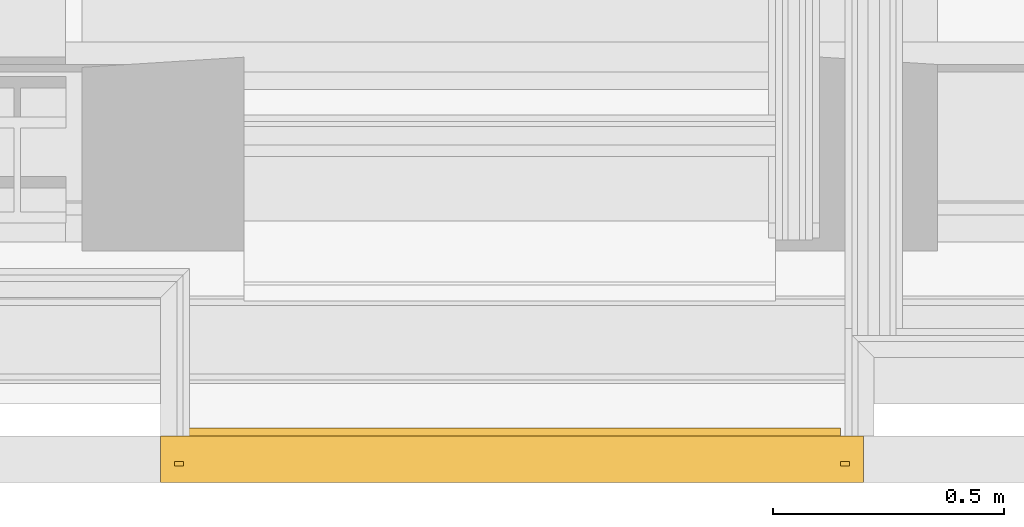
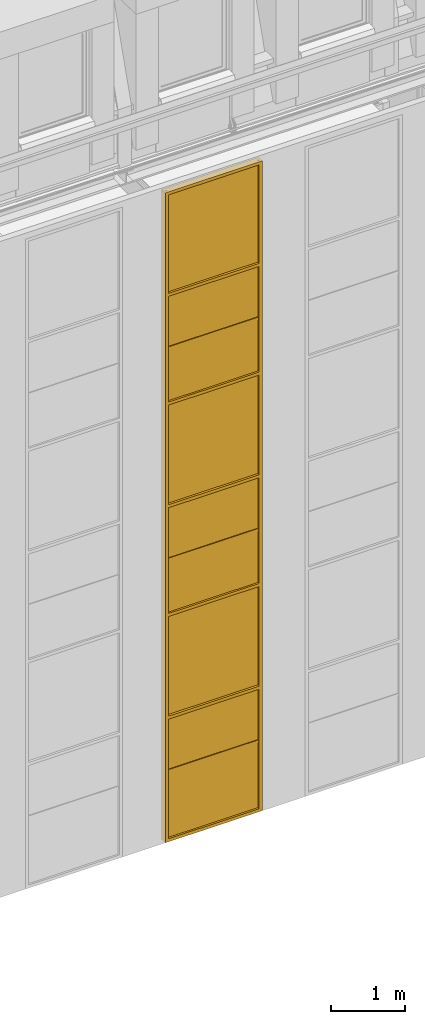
# One storey, part 137 of 183: 1 curtain wall.
"""IFC2X3 building model written with IfcOpenShell, lengths in metres."""

import ifcopenshell
import ifcopenshell.guid

model = None  # the IFC model being written
_history = None  # IfcOwnerHistory: only IFC2X3 demands one
_inside = {}  # id of a spatial element -> (the spatial element, [elements in it])
_under = {}  # id of a project, library or spatial element -> (it, [spatial elements below it])
_declared = {}  # id of a project -> (the project, [libraries it declares])
_typed = {}  # id of a type object -> (the type object, [elements of that type])
_made_of = {}  # id of a material, layer set ... -> (it, [elements and type objects made of it])


def new_model(schema):
    """Start an empty IFC model of exactly this schema.

    Asked for "IFC4X3", IfcOpenShell would pick the latest addendum, in which some entities
    have other attributes; the version numbers below select the first issue.
    IFC2X3 requires an IfcOwnerHistory on every rooted entity: one is made here for all.
    """
    global model, _history
    if schema == "IFC4X3":
        model = ifcopenshell.file(schema_version=(4, 3, 0, 0))
    else:
        model = ifcopenshell.file(schema=schema)
    _inside.clear()
    _under.clear()
    _declared.clear()
    _typed.clear()
    _made_of.clear()
    _history = None
    if model.schema == "IFC2X3":
        org = make("IfcOrganization", Name="unknown")
        user = make(
            "IfcPersonAndOrganization",
            ThePerson=make("IfcPerson", FamilyName="unknown"),
            TheOrganization=org,
        )
        app = make(
            "IfcApplication",
            ApplicationDeveloper=org,
            Version="unknown",
            ApplicationFullName="unknown",
            ApplicationIdentifier="unknown",
        )
        _history = make(
            "IfcOwnerHistory",
            OwningUser=user,
            OwningApplication=app,
            ChangeAction="ADDED",
            CreationDate=0,
        )
    return model


def make(cls, **values):
    """One entity of the class cls with the attributes given. An attribute that is None is left unset."""
    return model.create_entity(
        cls, **{name: value for name, value in values.items() if value is not None}
    )


def entity(cls, *values):
    """Any entity or typed value of the class cls, its attributes in the order of the schema. None: left unset."""
    e = model.create_entity(cls)
    for i, value in enumerate(values):
        if value is not None:
            e[i] = value
    return e


def rooted(cls, **values):
    """An entity with a GlobalId (a new one), such as an element, a storey or a relation."""
    return make(cls, GlobalId=ifcopenshell.guid.new(), OwnerHistory=_history, **values)


def si_unit(unit_type, name, prefix=None):
    """IfcSIUnit, for example si_unit("LENGTHUNIT", "METRE", prefix="MILLI")."""
    return make("IfcSIUnit", UnitType=unit_type, Prefix=prefix, Name=name)


def converted_unit(unit_type, name, factor, base, dimensions=None, offset=None):
    """IfcConversionBasedUnit, such as the inch: factor (a typed value) times the base unit."""
    return make(
        "IfcConversionBasedUnit"
        if offset is None
        else "IfcConversionBasedUnitWithOffset",
        ConversionOffset=offset,
        Dimensions=None
        if dimensions is None
        else entity("IfcDimensionalExponents", *dimensions),
        UnitType=unit_type,
        Name=name,
        ConversionFactor=make(
            "IfcMeasureWithUnit", ValueComponent=factor, UnitComponent=base
        ),
    )


def derived_unit(unit_type, elements):
    """IfcDerivedUnit: a product of units, each with its exponent."""
    return make(
        "IfcDerivedUnit",
        Elements=[
            make("IfcDerivedUnitElement", Unit=unit, Exponent=power)
            for unit, power in elements
        ],
        UnitType=unit_type,
    )


def money_unit(currency):
    """IfcMonetaryUnit."""
    return make("IfcMonetaryUnit", Currency=currency)


def assignment(units):
    """IfcUnitAssignment: the units of a project."""
    return None if units is None else make("IfcUnitAssignment", Units=units)


def point(xyz):
    """IfcCartesianPoint."""
    return None if xyz is None else make("IfcCartesianPoint", Coordinates=xyz)


def direction(xyz):
    """IfcDirection."""
    return None if xyz is None else make("IfcDirection", DirectionRatios=xyz)


def frame(location, z_axis=None, x_axis=None):
    """IfcAxis2Placement3D, a coordinate frame: its origin and axes. An axis left out is left unset."""
    return make(
        "IfcAxis2Placement3D",
        Location=point(location),
        Axis=direction(z_axis),
        RefDirection=direction(x_axis),
    )


def origin_with_axes():
    """The frame at (0, 0, 0) with the z axis (0, 0, 1) and the x axis (1, 0, 0) written out."""
    return frame((0.0, 0.0, 0.0), z_axis=(0.0, 0.0, 1.0), x_axis=(1.0, 0.0, 0.0))


def place(relative_to, where):
    """IfcLocalPlacement: puts the frame where relative to a parent placement (None: the world)."""
    return make(
        "IfcLocalPlacement", PlacementRelTo=relative_to, RelativePlacement=where
    )


def context(
    kind, dimensions, precision=None, world=None, true_north=None, identifier=None
):
    """IfcGeometricRepresentationContext, for example the 3D "Model" context."""
    return make(
        "IfcGeometricRepresentationContext",
        ContextIdentifier=identifier,
        ContextType=kind,
        CoordinateSpaceDimension=dimensions,
        Precision=precision,
        WorldCoordinateSystem=world,
        TrueNorth=true_north,
    )


def subcontext(parent, identifier, kind, view, scale=None):
    """IfcGeometricRepresentationSubContext, for example "Body" below "Model"."""
    return make(
        "IfcGeometricRepresentationSubContext",
        ContextIdentifier=identifier,
        ContextType=kind,
        ParentContext=parent,
        TargetScale=scale,
        TargetView=view,
    )


def project(units=None, contexts=None):
    """IfcProject with its units and contexts."""
    return rooted(
        "IfcProject",
        Name="project",
        RepresentationContexts=contexts,
        UnitsInContext=assignment(units),
    )


def spatial(cls, under=None, at=None, **own):
    """A site, building, storey or space (cls), placed at a placement, below another one or the project."""
    s = rooted(cls, ObjectPlacement=at, **own)
    if under is not None:
        _under.setdefault(under.id(), (under, []))[1].append(s)
    return s


def faces_of(points, faces, orient=None, outer=None):
    """IfcFace entities. A face is a list of loops; a loop is a list of indices into points, from 0.

    orient and outer hold one flag for each loop. By default every Orientation is true, the
    first loop of a face is its IfcFaceOuterBound and the others are IfcFaceBound.
    """
    made = []
    for i, loops in enumerate(faces):
        bounds = []
        for j, loop in enumerate(loops):
            is_outer = j == 0 if outer is None else outer[i][j]
            bounds.append(
                make(
                    "IfcFaceOuterBound" if is_outer else "IfcFaceBound",
                    Bound=make("IfcPolyLoop", Polygon=[points[k] for k in loop]),
                    Orientation=True if orient is None else orient[i][j],
                )
            )
        made.append(make("IfcFace", Bounds=bounds))
    return made


def faceted_brep(points, faces, orient=None, outer=None, voids=None):
    """IfcFacetedBrep: a solid bounded by flat faces; with voids (closed shells), ...WithVoids."""
    shared = [point(p) for p in points]
    hull = make("IfcClosedShell", CfsFaces=faces_of(shared, faces, orient, outer))
    if voids is None:
        return make("IfcFacetedBrep", Outer=hull)
    return make(
        "IfcFacetedBrepWithVoids",
        Outer=hull,
        Voids=[
            make(cls, CfsFaces=faces_of(shared, fs, o, b)) for cls, fs, o, b in voids
        ],
    )


def shape(context_of_items, identifier, shape_type, items):
    """IfcShapeRepresentation: the items that make up one representation, for example the "Body"."""
    return make(
        "IfcShapeRepresentation",
        ContextOfItems=context_of_items,
        RepresentationIdentifier=identifier,
        RepresentationType=shape_type,
        Items=items,
    )


def material(Name=None, Category=None):
    """IfcMaterial."""
    return make("IfcMaterial", Name=Name, Category=Category)


def made_of(thing, what):
    """Note that an element or type object is made of a material, layer set ...; save() writes the relation."""
    if what is not None:
        _made_of.setdefault(what.id(), (what, []))[1].append(thing)
    return thing


def type_object(cls, material=None, **own):
    """A type object (cls), such as IfcWallType, which elements share."""
    return made_of(rooted(cls, **own), material)


def element(
    cls,
    number,
    at=None,
    inside=None,
    cuts=None,
    type_object=None,
    material=None,
    context=None,
    identifier="Body",
    shape_type=None,
    held_by="IfcProductDefinitionShape",
    body=None,
    shapes=None,
    **own,
):
    """One element of the class cls, such as IfcWall. Its Tag is "e" and its number.

    at: its placement. inside: the storey or other place that contains it. cuts: it is an
    opening in that element (IfcRelVoidsElement). A single representation is given by context,
    identifier, shape_type and body (its items); several are given by shapes. held_by: the class
    of the entity that holds the representations. save() writes the other relations.
    """
    e = rooted(cls, Tag="e%d" % number, ObjectPlacement=at, **own)
    if body is not None:
        shapes = [shape(context, identifier, shape_type, body)]
    if shapes is not None:
        e.Representation = make(held_by, Representations=shapes)
    if inside is not None:
        _inside.setdefault(inside.id(), (inside, []))[1].append(e)
    if cuts is not None:
        rooted(
            "IfcRelVoidsElement", RelatingBuildingElement=cuts, RelatedOpeningElement=e
        )
    if type_object is not None:
        _typed.setdefault(type_object.id(), (type_object, []))[1].append(e)
    return made_of(e, material)


def aggregate(whole, parts):
    """IfcRelAggregates: a whole, such as a stair, and the parts it consists of."""
    return rooted("IfcRelAggregates", RelatingObject=whole, RelatedObjects=parts)


def save(model, path):
    """Write the relations noted so far, then the file.

    IfcRelAggregates (storeys below a building ...), IfcRelContainedInSpatialStructure (elements
    in a storey), IfcRelDefinesByType, IfcRelAssociatesMaterial and IfcRelDeclares: one each for
    every whole, place, type object, material and project.
    """
    for whole, parts in _under.values():
        aggregate(whole, parts)
    for where, things in _inside.values():
        rooted(
            "IfcRelContainedInSpatialStructure",
            RelatedElements=things,
            RelatingStructure=where,
        )
    for kind, things in _typed.values():
        rooted("IfcRelDefinesByType", RelatedObjects=things, RelatingType=kind)
    for what, things in _made_of.values():
        rooted("IfcRelAssociatesMaterial", RelatedObjects=things, RelatingMaterial=what)
    for by, libraries in _declared.values():
        rooted("IfcRelDeclares", RelatingContext=by, RelatedDefinitions=libraries)
    model.write(path)


model = new_model("IFC2X3")

# Units and contexts
model_context = context("Model", 3, precision=1e-05, world=origin_with_axes(), true_north=direction((0.0, 1.0)))
body_context = subcontext(model_context, "Body", "Model", "MODEL_VIEW", scale=1.0)
ifc_project = project(units=[si_unit("LENGTHUNIT", "METRE"), si_unit("AREAUNIT", "SQUARE_METRE"), si_unit("VOLUMEUNIT", "CUBIC_METRE"), si_unit("ABSORBEDDOSEUNIT", "GRAY"), si_unit("AMOUNTOFSUBSTANCEUNIT", "MOLE"), si_unit("DOSEEQUIVALENTUNIT", "SIEVERT"), si_unit("ELECTRICCAPACITANCEUNIT", "FARAD"), si_unit("ELECTRICCHARGEUNIT", "COULOMB"), si_unit("ELECTRICCONDUCTANCEUNIT", "SIEMENS"), si_unit("ELECTRICCURRENTUNIT", "AMPERE"), si_unit("ELECTRICRESISTANCEUNIT", "OHM"), si_unit("ELECTRICVOLTAGEUNIT", "VOLT"), si_unit("ENERGYUNIT", "JOULE"), si_unit("FORCEUNIT", "NEWTON"), si_unit("FREQUENCYUNIT", "HERTZ"), si_unit("ILLUMINANCEUNIT", "LUX"), si_unit("INDUCTANCEUNIT", "HENRY"), si_unit("LUMINOUSFLUXUNIT", "LUMEN"), si_unit("LUMINOUSINTENSITYUNIT", "CANDELA"), si_unit("MAGNETICFLUXDENSITYUNIT", "TESLA"), si_unit("MAGNETICFLUXUNIT", "WEBER"), si_unit("MASSUNIT", "GRAM"), converted_unit("PLANEANGLEUNIT", "degree", entity("IfcReal", 0.0174532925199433), si_unit("PLANEANGLEUNIT", "RADIAN"), dimensions=[0, 0, 0, 0, 0, 0, 0]), si_unit("POWERUNIT", "WATT"), si_unit("PRESSUREUNIT", "PASCAL"), si_unit("RADIOACTIVITYUNIT", "BECQUEREL"), si_unit("SOLIDANGLEUNIT", "STERADIAN"), si_unit("THERMODYNAMICTEMPERATUREUNIT", "KELVIN"), si_unit("TIMEUNIT", "SECOND"), derived_unit("ACCELERATIONUNIT", [(si_unit("LENGTHUNIT", "METRE"), 1), (si_unit("TIMEUNIT", "SECOND"), -2)]), derived_unit("ANGULARVELOCITYUNIT", [(converted_unit("PLANEANGLEUNIT", "degree", entity("IfcReal", 0.0174532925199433), si_unit("PLANEANGLEUNIT", "RADIAN"), dimensions=[0, 0, 0, 0, 0, 0, 0]), 1), (si_unit("TIMEUNIT", "SECOND"), -1)]), derived_unit("CURVATUREUNIT", [(converted_unit("PLANEANGLEUNIT", "degree", entity("IfcReal", 0.0174532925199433), si_unit("PLANEANGLEUNIT", "RADIAN"), dimensions=[0, 0, 0, 0, 0, 0, 0]), 1), (si_unit("LENGTHUNIT", "METRE"), -1)]), derived_unit("DYNAMICVISCOSITYUNIT", [(si_unit("PRESSUREUNIT", "PASCAL"), 1), (si_unit("TIMEUNIT", "SECOND"), 1)]), derived_unit("HEATFLUXDENSITYUNIT", [(si_unit("POWERUNIT", "WATT"), 1), (si_unit("LENGTHUNIT", "METRE"), -2)]), derived_unit("HEATINGVALUEUNIT", [(si_unit("ENERGYUNIT", "JOULE"), 1), (si_unit("MASSUNIT", "GRAM"), -1)]), derived_unit("INTEGERCOUNTRATEUNIT", [(si_unit("TIMEUNIT", "SECOND"), -1)]), derived_unit("IONCONCENTRATIONUNIT", [(si_unit("MASSUNIT", "GRAM"), 1), (si_unit("VOLUMEUNIT", "CUBIC_METRE"), -1)]), derived_unit("ISOTHERMALMOISTURECAPACITYUNIT", [(si_unit("VOLUMEUNIT", "CUBIC_METRE"), 1), (si_unit("MASSUNIT", "GRAM"), -1)]), derived_unit("KINEMATICVISCOSITYUNIT", [(si_unit("AREAUNIT", "SQUARE_METRE"), 1), (si_unit("TIMEUNIT", "SECOND"), -1)]), derived_unit("LINEARFORCEUNIT", [(si_unit("FORCEUNIT", "NEWTON"), 1), (si_unit("LENGTHUNIT", "METRE"), -1)]), derived_unit("LINEARMOMENTUNIT", [(si_unit("FORCEUNIT", "NEWTON"), 1), (si_unit("LENGTHUNIT", "METRE"), -1)]), derived_unit("LINEARSTIFFNESSUNIT", [(si_unit("FORCEUNIT", "NEWTON"), 1), (si_unit("LENGTHUNIT", "METRE"), -1)]), derived_unit("LINEARVELOCITYUNIT", [(si_unit("LENGTHUNIT", "METRE"), 1), (si_unit("TIMEUNIT", "SECOND"), -1)]), derived_unit("LUMINOUSINTENSITYDISTRIBUTIONUNIT", [(si_unit("LUMINOUSINTENSITYUNIT", "CANDELA"), 1), (si_unit("LUMINOUSFLUXUNIT", "LUMEN"), -1)]), derived_unit("MASSDENSITYUNIT", [(si_unit("MASSUNIT", "GRAM"), 1), (si_unit("VOLUMEUNIT", "CUBIC_METRE"), -1)]), derived_unit("MASSFLOWRATEUNIT", [(si_unit("MASSUNIT", "GRAM"), 1), (si_unit("TIMEUNIT", "SECOND"), -1)]), derived_unit("MASSPERLENGTHUNIT", [(si_unit("MASSUNIT", "GRAM"), 1), (si_unit("LENGTHUNIT", "METRE"), -1)]), derived_unit("MODULUSOFELASTICITYUNIT", [(si_unit("FORCEUNIT", "NEWTON"), 1), (si_unit("AREAUNIT", "SQUARE_METRE"), -1)]), derived_unit("MODULUSOFLINEARSUBGRADEREACTIONUNIT", [(si_unit("FORCEUNIT", "NEWTON"), 1), (si_unit("LENGTHUNIT", "METRE"), -2)]), derived_unit("MODULUSOFROTATIONALSUBGRADEREACTIONUNIT", [(si_unit("FORCEUNIT", "NEWTON"), 1), (si_unit("LENGTHUNIT", "METRE"), 1)]), derived_unit("MODULUSOFSUBGRADEREACTIONUNIT", [(si_unit("FORCEUNIT", "NEWTON"), 1), (si_unit("VOLUMEUNIT", "CUBIC_METRE"), -1)]), derived_unit("MOISTUREDIFFUSIVITYUNIT", [(si_unit("VOLUMEUNIT", "CUBIC_METRE"), 1), (si_unit("TIMEUNIT", "SECOND"), -1)]), derived_unit("MOLECULARWEIGHTUNIT", [(si_unit("MASSUNIT", "GRAM"), 1), (si_unit("AMOUNTOFSUBSTANCEUNIT", "MOLE"), -1)]), derived_unit("PLANARFORCEUNIT", [(si_unit("FORCEUNIT", "NEWTON"), 1), (si_unit("LENGTHUNIT", "METRE"), -2)]), derived_unit("ROTATIONALFREQUENCYUNIT", [(si_unit("TIMEUNIT", "SECOND"), -1)]), derived_unit("ROTATIONALMASSUNIT", [(si_unit("MASSUNIT", "GRAM"), 1), (si_unit("LENGTHUNIT", "METRE"), 2)]), derived_unit("ROTATIONALSTIFFNESSUNIT", [(si_unit("FORCEUNIT", "NEWTON"), 1), (si_unit("LENGTHUNIT", "METRE"), 1), (converted_unit("PLANEANGLEUNIT", "degree", entity("IfcReal", 0.0174532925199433), si_unit("PLANEANGLEUNIT", "RADIAN"), dimensions=[0, 0, 0, 0, 0, 0, 0]), -1)]), derived_unit("SECTIONAREAINTEGRALUNIT", [(si_unit("LENGTHUNIT", "METRE"), 5)]), derived_unit("SECTIONMODULUSUNIT", [(si_unit("LENGTHUNIT", "METRE"), 3)]), derived_unit("SHEARMODULUSUNIT", [(si_unit("FORCEUNIT", "NEWTON"), 1), (si_unit("AREAUNIT", "SQUARE_METRE"), -1)]), derived_unit("SOUNDPOWERUNIT", [(si_unit("ENERGYUNIT", "JOULE"), 1), (si_unit("TIMEUNIT", "SECOND"), -1)]), derived_unit("SPECIFICHEATCAPACITYUNIT", [(si_unit("FORCEUNIT", "NEWTON"), 1), (si_unit("MASSUNIT", "GRAM"), -1), (si_unit("THERMODYNAMICTEMPERATUREUNIT", "KELVIN"), -1)]), derived_unit("TEMPERATUREGRADIENTUNIT", [(si_unit("THERMODYNAMICTEMPERATUREUNIT", "KELVIN"), 1), (si_unit("LENGTHUNIT", "METRE"), -1)]), derived_unit("THERMALADMITTANCEUNIT", [(si_unit("POWERUNIT", "WATT"), 1), (si_unit("AREAUNIT", "SQUARE_METRE"), -1), (si_unit("THERMODYNAMICTEMPERATUREUNIT", "KELVIN"), -1)]), derived_unit("THERMALCONDUCTANCEUNIT", [(si_unit("POWERUNIT", "WATT"), 1), (si_unit("LENGTHUNIT", "METRE"), -1), (si_unit("THERMODYNAMICTEMPERATUREUNIT", "KELVIN"), -1)]), derived_unit("THERMALEXPANSIONCOEFFICIENTUNIT", [(si_unit("THERMODYNAMICTEMPERATUREUNIT", "KELVIN"), -1)]), derived_unit("THERMALRESISTANCEUNIT", [(si_unit("AREAUNIT", "SQUARE_METRE"), 1), (si_unit("POWERUNIT", "WATT"), -1)]), derived_unit("THERMALTRANSMITTANCEUNIT", [(si_unit("POWERUNIT", "WATT"), 1), (si_unit("AREAUNIT", "SQUARE_METRE"), -1), (si_unit("THERMODYNAMICTEMPERATUREUNIT", "KELVIN"), -1)]), derived_unit("TORQUEUNIT", [(si_unit("FORCEUNIT", "NEWTON"), 1), (si_unit("LENGTHUNIT", "METRE"), 1)]), derived_unit("VAPORPERMEABILITYUNIT", [(si_unit("MASSUNIT", "GRAM"), 1), (si_unit("TIMEUNIT", "SECOND"), -1)]), derived_unit("VOLUMETRICFLOWRATEUNIT", [(si_unit("VOLUMEUNIT", "CUBIC_METRE"), 1), (si_unit("TIMEUNIT", "SECOND"), -1)]), derived_unit("WARPINGCONSTANTUNIT", [(si_unit("LENGTHUNIT", "METRE"), 6)]), derived_unit("WARPINGMOMENTUNIT", [(si_unit("FORCEUNIT", "NEWTON"), 1), (si_unit("LENGTHUNIT", "METRE"), 2)]), money_unit("GBP")], contexts=[model_context])

# Site, building, storey
site_placement = place(None, origin_with_axes())
site = spatial("IfcSite", under=ifc_project, at=site_placement, Name="Site", CompositionType="ELEMENT")
building_placement = place(site_placement, origin_with_axes())
building = spatial("IfcBuilding", under=site, at=building_placement, Name="Building01", CompositionType="ELEMENT")
storey_placement = place(building_placement, frame((0.0, 0.0, 5.15), z_axis=(0.0, 0.0, 1.0), x_axis=(1.0, 0.0, 0.0)))
storey = spatial("IfcBuildingStorey", under=building, at=storey_placement, Name="1F", CompositionType="ELEMENT", Elevation=5.15)

# Curtain wall
ifc_material = material(Name="A-CurtainWall_Frame")
curtain_wall_type = type_object("IfcCurtainWallType", Name="Pattern - Maximum Spacing", PredefinedType="NOTDEFINED")
curtain_wall_placement = place(storey_placement, frame((0.0, 0.0, -5.15), z_axis=(0.0, 0.0, 1.0), x_axis=(1.0, 0.0, 0.0)))
element("IfcCurtainWall", 1, at=curtain_wall_placement, inside=storey, type_object=curtain_wall_type, material=ifc_material, Name="24", ObjectType="Pattern - Maximum Spacing", context=body_context, shape_type="Brep", body=[
    faceted_brep([(18.25, 0.05, 4.0), (18.25, 0.03, 4.0), (18.25, 0.03, 5.118945), (18.25, 0.05, 5.118945), (19.71, 0.05, 4.0), (19.71, 0.03, 4.0), (19.71, 0.05, 5.118945), (19.71, 0.03, 5.118945)], [[[0, 1, 2, 3]], [[4, 5, 1, 0]], [[6, 7, 5, 4]], [[3, 2, 7, 6]], [[1, 5, 7, 2]], [[3, 6, 4, 0]]]),
    faceted_brep([(18.27, 0.045, 3.97), (18.25, 0.045, 3.97), (18.25, 0.035, 3.97), (18.27, 0.035, 3.97), (18.27, 0.0, 3.97), (18.22, 0.0, 3.97), (18.22, 0.1, 3.97), (18.27, 0.1, 3.97), (18.27, 0.1, 5.123945), (18.27, 0.045, 5.123945), (18.25, 0.045, 5.123945), (18.25, 0.035, 5.123945), (18.27, 0.035, 5.123945), (18.27, 0.0, 5.123945), (18.22, 0.0, 5.123945), (18.22, 0.1, 5.123945)], [[[0, 1, 2, 3, 4, 5, 6, 7]], [[7, 8, 9, 0]], [[0, 9, 10, 1]], [[1, 10, 11, 2]], [[2, 11, 12, 3]], [[3, 12, 13, 4]], [[4, 13, 14, 5]], [[5, 14, 15, 6]], [[6, 15, 8, 7]]]),
    faceted_brep([(19.69, 0.045, 4.0), (19.69, 0.035, 4.0), (19.69, 0.035, 4.02), (19.69, 0.0, 4.02), (19.69, 0.0, 3.97), (19.69, 0.1, 3.97), (19.69, 0.1, 4.02), (19.69, 0.045, 4.02), (18.27, 0.045, 4.02), (18.27, 0.045, 4.0), (18.27, 0.035, 4.0), (18.27, 0.035, 4.02), (18.27, 0.0, 4.02), (18.27, 0.0, 3.97), (18.27, 0.1, 3.97), (18.27, 0.1, 4.02)], [[[0, 1, 2, 3, 4, 5, 6, 7]], [[7, 8, 9, 0]], [[0, 9, 10, 1]], [[1, 10, 11, 2]], [[2, 11, 12, 3]], [[3, 12, 13, 4]], [[4, 13, 14, 5]], [[5, 14, 15, 6]], [[6, 15, 8, 7]], [[8, 15, 14, 13, 12, 11, 10, 9]]]),
    faceted_brep([(19.69, 0.045, 3.97), (19.69, 0.045, 5.123945), (19.69, 0.1, 5.123945), (19.69, 0.1, 3.97), (19.71, 0.045, 3.97), (19.71, 0.045, 5.123945), (19.71, 0.035, 3.97), (19.71, 0.035, 5.123945), (19.69, 0.035, 3.97), (19.69, 0.035, 5.123945), (19.69, 0.0, 3.97), (19.69, 0.0, 5.123945), (19.74, 0.0, 3.97), (19.74, 0.0, 5.123945), (19.74, 0.1, 3.97), (19.74, 0.1, 5.123945)], [[[0, 1, 2, 3]], [[4, 5, 1, 0]], [[6, 7, 5, 4]], [[8, 9, 7, 6]], [[10, 11, 9, 8]], [[12, 13, 11, 10]], [[14, 15, 13, 12]], [[3, 2, 15, 14]], [[14, 12, 10, 8, 6, 4, 0, 3]]]),
    faceted_brep([(18.27, 0.0625, 5.118945), (18.27, 0.0525, 5.118945), (18.27, 0.0525, 5.098945), (18.27, 0.0175, 5.098945), (18.27, 0.0175, 5.148945), (18.27, 0.0525, 5.148945), (18.27, 0.0525, 5.128945), (18.27, 0.0625, 5.128945), (18.27, 0.0625, 5.148945), (18.27, 0.1175, 5.148945), (18.27, 0.1175, 5.098945), (18.27, 0.0625, 5.098945), (19.69, 0.0625, 5.098945), (19.69, 0.0625, 5.118945), (19.69, 0.0525, 5.118945), (19.69, 0.0525, 5.098945), (19.69, 0.0175, 5.098945), (19.69, 0.0175, 5.148945), (19.69, 0.0525, 5.148945), (19.69, 0.0625, 5.128945), (19.69, 0.0625, 5.148945), (19.69, 0.0525, 5.128945), (19.69, 0.1175, 5.098945), (19.69, 0.1175, 5.148945)], [[[0, 1, 2, 3, 4, 5, 6, 7, 8, 9, 10, 11]], [[11, 12, 13, 0]], [[0, 13, 14, 1]], [[1, 14, 15, 2]], [[2, 15, 16, 3]], [[3, 16, 17, 4]], [[4, 17, 18, 5]], [[7, 19, 20, 8]], [[6, 21, 19, 7]], [[5, 18, 21, 6]], [[10, 22, 12, 11]], [[9, 23, 22, 10]], [[8, 20, 23, 9]], [[20, 19, 21, 18, 17, 16, 15, 14, 13, 12, 22, 23]]]),
    faceted_brep([(18.25, 0.05, 5.128945), (18.25, 0.03, 5.128945), (18.25, 0.03, 6.018105), (18.25, 0.05, 6.018105), (19.71, 0.05, 5.128945), (19.71, 0.03, 5.128945), (19.71, 0.05, 6.018105), (19.71, 0.03, 6.018105)], [[[0, 1, 2, 3]], [[4, 5, 1, 0]], [[6, 7, 5, 4]], [[3, 2, 7, 6]], [[1, 5, 7, 2]], [[3, 6, 4, 0]]]),
    faceted_brep([(18.22, 0.1, 6.023105), (18.22, 0.1, 5.123945), (18.22, 0.0, 5.123945), (18.22, 0.0, 6.023105), (18.27, 0.1, 6.023105), (18.27, 0.1, 5.123945), (18.27, 0.045, 6.023105), (18.27, 0.045, 5.123945), (18.25, 0.045, 6.023105), (18.25, 0.045, 5.123945), (18.25, 0.035, 6.023105), (18.25, 0.035, 5.123945), (18.27, 0.035, 6.023105), (18.27, 0.035, 5.123945), (18.27, 0.0, 6.023105), (18.27, 0.0, 5.123945)], [[[0, 1, 2, 3]], [[4, 5, 1, 0]], [[6, 7, 5, 4]], [[8, 9, 7, 6]], [[10, 11, 9, 8]], [[12, 13, 11, 10]], [[14, 15, 13, 12]], [[3, 2, 15, 14]]]),
    faceted_brep([(19.69, 0.045, 5.123945), (19.69, 0.045, 6.023105), (19.69, 0.1, 6.023105), (19.69, 0.1, 5.123945), (19.71, 0.045, 5.123945), (19.71, 0.045, 6.023105), (19.71, 0.035, 5.123945), (19.71, 0.035, 6.023105), (19.69, 0.035, 5.123945), (19.69, 0.035, 6.023105), (19.69, 0.0, 5.123945), (19.69, 0.0, 6.023105), (19.74, 0.0, 5.123945), (19.74, 0.0, 6.023105), (19.74, 0.1, 5.123945), (19.74, 0.1, 6.023105)], [[[0, 1, 2, 3]], [[4, 5, 1, 0]], [[6, 7, 5, 4]], [[8, 9, 7, 6]], [[10, 11, 9, 8]], [[12, 13, 11, 10]], [[14, 15, 13, 12]], [[3, 2, 15, 14]]]),
    faceted_brep([(18.27, 0.045, 6.018105), (18.27, 0.035, 6.018105), (18.27, 0.035, 5.998105), (18.27, 0.0, 5.998105), (18.27, 0.0, 6.048105), (18.27, 0.035, 6.048105), (18.27, 0.035, 6.028105), (18.27, 0.045, 6.028105), (18.27, 0.045, 6.048105), (18.27, 0.1, 6.048105), (18.27, 0.1, 5.998105), (18.27, 0.045, 5.998105), (19.69, 0.045, 5.998105), (19.69, 0.045, 6.018105), (19.69, 0.035, 6.018105), (19.69, 0.035, 5.998105), (19.69, 0.0, 5.998105), (19.69, 0.0, 6.048105), (19.69, 0.035, 6.048105), (19.69, 0.045, 6.028105), (19.69, 0.045, 6.048105), (19.69, 0.035, 6.028105), (19.69, 0.1, 5.998105), (19.69, 0.1, 6.048105)], [[[0, 1, 2, 3, 4, 5, 6, 7, 8, 9, 10, 11]], [[11, 12, 13, 0]], [[0, 13, 14, 1]], [[1, 14, 15, 2]], [[2, 15, 16, 3]], [[3, 16, 17, 4]], [[4, 17, 18, 5]], [[7, 19, 20, 8]], [[6, 21, 19, 7]], [[5, 18, 21, 6]], [[10, 22, 12, 11]], [[9, 23, 22, 10]], [[8, 20, 23, 9]], [[20, 19, 21, 18, 17, 16, 15, 14, 13, 12, 22, 23]]]),
    faceted_brep([(18.25, 0.045, 6.028105), (18.25, 0.035, 6.028105), (18.25, 0.035, 7.716517), (18.25, 0.045, 7.716517), (19.71, 0.045, 6.028105), (19.71, 0.035, 6.028105), (19.71, 0.045, 7.716517), (19.71, 0.035, 7.716517)], [[[0, 1, 2, 3]], [[4, 5, 1, 0]], [[6, 7, 5, 4]], [[3, 2, 7, 6]], [[1, 5, 7, 2]], [[3, 6, 4, 0]]]),
    faceted_brep([(18.22, 0.1, 7.721517), (18.22, 0.1, 6.023105), (18.22, 0.0, 6.023105), (18.22, 0.0, 7.721517), (18.27, 0.1, 7.721517), (18.27, 0.1, 6.023105), (18.27, 0.045, 7.721517), (18.27, 0.045, 6.023105), (18.25, 0.045, 7.721517), (18.25, 0.045, 6.023105), (18.25, 0.035, 7.721517), (18.25, 0.035, 6.023105), (18.27, 0.035, 7.721517), (18.27, 0.035, 6.023105), (18.27, 0.0, 7.721517), (18.27, 0.0, 6.023105)], [[[0, 1, 2, 3]], [[4, 5, 1, 0]], [[6, 7, 5, 4]], [[8, 9, 7, 6]], [[10, 11, 9, 8]], [[12, 13, 11, 10]], [[14, 15, 13, 12]], [[3, 2, 15, 14]]]),
    faceted_brep([(19.69, 0.045, 6.023105), (19.69, 0.045, 7.721517), (19.69, 0.1, 7.721517), (19.69, 0.1, 6.023105), (19.71, 0.045, 6.023105), (19.71, 0.045, 7.721517), (19.71, 0.035, 6.023105), (19.71, 0.035, 7.721517), (19.69, 0.035, 6.023105), (19.69, 0.035, 7.721517), (19.69, 0.0, 6.023105), (19.69, 0.0, 7.721517), (19.74, 0.0, 6.023105), (19.74, 0.0, 7.721517), (19.74, 0.1, 6.023105), (19.74, 0.1, 7.721517)], [[[0, 1, 2, 3]], [[4, 5, 1, 0]], [[6, 7, 5, 4]], [[8, 9, 7, 6]], [[10, 11, 9, 8]], [[12, 13, 11, 10]], [[14, 15, 13, 12]], [[3, 2, 15, 14]]]),
    faceted_brep([(18.27, 0.045, 7.716517), (18.27, 0.035, 7.716517), (18.27, 0.035, 7.696517), (18.27, 0.0, 7.696517), (18.27, 0.0, 7.746517), (18.27, 0.035, 7.746517), (18.27, 0.035, 7.726517), (18.27, 0.045, 7.726517), (18.27, 0.045, 7.746517), (18.27, 0.1, 7.746517), (18.27, 0.1, 7.696517), (18.27, 0.045, 7.696517), (19.69, 0.045, 7.696517), (19.69, 0.045, 7.716517), (19.69, 0.035, 7.716517), (19.69, 0.035, 7.696517), (19.69, 0.0, 7.696517), (19.69, 0.0, 7.746517), (19.69, 0.035, 7.746517), (19.69, 0.045, 7.726517), (19.69, 0.045, 7.746517), (19.69, 0.035, 7.726517), (19.69, 0.1, 7.696517), (19.69, 0.1, 7.746517)], [[[0, 1, 2, 3, 4, 5, 6, 7, 8, 9, 10, 11]], [[11, 12, 13, 0]], [[0, 13, 14, 1]], [[1, 14, 15, 2]], [[2, 15, 16, 3]], [[3, 16, 17, 4]], [[4, 17, 18, 5]], [[7, 19, 20, 8]], [[6, 21, 19, 7]], [[5, 18, 21, 6]], [[10, 22, 12, 11]], [[9, 23, 22, 10]], [[8, 20, 23, 9]], [[20, 19, 21, 18, 17, 16, 15, 14, 13, 12, 22, 23]]]),
    faceted_brep([(18.25, 0.05, 7.726517), (18.25, 0.03, 7.726517), (18.25, 0.03, 8.615677), (18.25, 0.05, 8.615677), (19.71, 0.05, 7.726517), (19.71, 0.03, 7.726517), (19.71, 0.05, 8.615677), (19.71, 0.03, 8.615677)], [[[0, 1, 2, 3]], [[4, 5, 1, 0]], [[6, 7, 5, 4]], [[3, 2, 7, 6]], [[1, 5, 7, 2]], [[3, 6, 4, 0]]]),
    faceted_brep([(18.22, 0.1, 8.620677), (18.22, 0.1, 7.721517), (18.22, 0.0, 7.721517), (18.22, 0.0, 8.620677), (18.27, 0.1, 8.620677), (18.27, 0.1, 7.721517), (18.27, 0.045, 8.620677), (18.27, 0.045, 7.721517), (18.25, 0.045, 8.620677), (18.25, 0.045, 7.721517), (18.25, 0.035, 8.620677), (18.25, 0.035, 7.721517), (18.27, 0.035, 8.620677), (18.27, 0.035, 7.721517), (18.27, 0.0, 8.620677), (18.27, 0.0, 7.721517)], [[[0, 1, 2, 3]], [[4, 5, 1, 0]], [[6, 7, 5, 4]], [[8, 9, 7, 6]], [[10, 11, 9, 8]], [[12, 13, 11, 10]], [[14, 15, 13, 12]], [[3, 2, 15, 14]]]),
    faceted_brep([(19.69, 0.045, 7.721517), (19.69, 0.045, 8.620677), (19.69, 0.1, 8.620677), (19.69, 0.1, 7.721517), (19.71, 0.045, 7.721517), (19.71, 0.045, 8.620677), (19.71, 0.035, 7.721517), (19.71, 0.035, 8.620677), (19.69, 0.035, 7.721517), (19.69, 0.035, 8.620677), (19.69, 0.0, 7.721517), (19.69, 0.0, 8.620677), (19.74, 0.0, 7.721517), (19.74, 0.0, 8.620677), (19.74, 0.1, 7.721517), (19.74, 0.1, 8.620677)], [[[0, 1, 2, 3]], [[4, 5, 1, 0]], [[6, 7, 5, 4]], [[8, 9, 7, 6]], [[10, 11, 9, 8]], [[12, 13, 11, 10]], [[14, 15, 13, 12]], [[3, 2, 15, 14]]]),
    faceted_brep([(18.27, 0.0625, 8.615677), (18.27, 0.0525, 8.615677), (18.27, 0.0525, 8.595677), (18.27, 0.0175, 8.595677), (18.27, 0.0175, 8.645677), (18.27, 0.0525, 8.645677), (18.27, 0.0525, 8.625677), (18.27, 0.0625, 8.625677), (18.27, 0.0625, 8.645677), (18.27, 0.1175, 8.645677), (18.27, 0.1175, 8.595677), (18.27, 0.0625, 8.595677), (19.69, 0.0625, 8.595677), (19.69, 0.0625, 8.615677), (19.69, 0.0525, 8.615677), (19.69, 0.0525, 8.595677), (19.69, 0.0175, 8.595677), (19.69, 0.0175, 8.645677), (19.69, 0.0525, 8.645677), (19.69, 0.0625, 8.625677), (19.69, 0.0625, 8.645677), (19.69, 0.0525, 8.625677), (19.69, 0.1175, 8.595677), (19.69, 0.1175, 8.645677)], [[[0, 1, 2, 3, 4, 5, 6, 7, 8, 9, 10, 11]], [[11, 12, 13, 0]], [[0, 13, 14, 1]], [[1, 14, 15, 2]], [[2, 15, 16, 3]], [[3, 16, 17, 4]], [[4, 17, 18, 5]], [[7, 19, 20, 8]], [[6, 21, 19, 7]], [[5, 18, 21, 6]], [[10, 22, 12, 11]], [[9, 23, 22, 10]], [[8, 20, 23, 9]], [[20, 19, 21, 18, 17, 16, 15, 14, 13, 12, 22, 23]]]),
    faceted_brep([(18.25, 0.05, 8.625677), (18.25, 0.03, 8.625677), (18.25, 0.03, 9.514837), (18.25, 0.05, 9.514837), (19.71, 0.05, 8.625677), (19.71, 0.03, 8.625677), (19.71, 0.05, 9.514837), (19.71, 0.03, 9.514837)], [[[0, 1, 2, 3]], [[4, 5, 1, 0]], [[6, 7, 5, 4]], [[3, 2, 7, 6]], [[1, 5, 7, 2]], [[3, 6, 4, 0]]]),
    faceted_brep([(18.22, 0.1, 9.519837), (18.22, 0.1, 8.620677), (18.22, 0.0, 8.620677), (18.22, 0.0, 9.519837), (18.27, 0.1, 9.519837), (18.27, 0.1, 8.620677), (18.27, 0.045, 9.519837), (18.27, 0.045, 8.620677), (18.25, 0.045, 9.519837), (18.25, 0.045, 8.620677), (18.25, 0.035, 9.519837), (18.25, 0.035, 8.620677), (18.27, 0.035, 9.519837), (18.27, 0.035, 8.620677), (18.27, 0.0, 9.519837), (18.27, 0.0, 8.620677)], [[[0, 1, 2, 3]], [[4, 5, 1, 0]], [[6, 7, 5, 4]], [[8, 9, 7, 6]], [[10, 11, 9, 8]], [[12, 13, 11, 10]], [[14, 15, 13, 12]], [[3, 2, 15, 14]]]),
    faceted_brep([(19.69, 0.045, 8.620677), (19.69, 0.045, 9.519837), (19.69, 0.1, 9.519837), (19.69, 0.1, 8.620677), (19.71, 0.045, 8.620677), (19.71, 0.045, 9.519837), (19.71, 0.035, 8.620677), (19.71, 0.035, 9.519837), (19.69, 0.035, 8.620677), (19.69, 0.035, 9.519837), (19.69, 0.0, 8.620677), (19.69, 0.0, 9.519837), (19.74, 0.0, 8.620677), (19.74, 0.0, 9.519837), (19.74, 0.1, 8.620677), (19.74, 0.1, 9.519837)], [[[0, 1, 2, 3]], [[4, 5, 1, 0]], [[6, 7, 5, 4]], [[8, 9, 7, 6]], [[10, 11, 9, 8]], [[12, 13, 11, 10]], [[14, 15, 13, 12]], [[3, 2, 15, 14]]]),
    faceted_brep([(18.27, 0.045, 9.514837), (18.27, 0.035, 9.514837), (18.27, 0.035, 9.494837), (18.27, 0.0, 9.494837), (18.27, 0.0, 9.544837), (18.27, 0.035, 9.544837), (18.27, 0.035, 9.524837), (18.27, 0.045, 9.524837), (18.27, 0.045, 9.544837), (18.27, 0.1, 9.544837), (18.27, 0.1, 9.494837), (18.27, 0.045, 9.494837), (19.69, 0.045, 9.494837), (19.69, 0.045, 9.514837), (19.69, 0.035, 9.514837), (19.69, 0.035, 9.494837), (19.69, 0.0, 9.494837), (19.69, 0.0, 9.544837), (19.69, 0.035, 9.544837), (19.69, 0.045, 9.524837), (19.69, 0.045, 9.544837), (19.69, 0.035, 9.524837), (19.69, 0.1, 9.494837), (19.69, 0.1, 9.544837)], [[[0, 1, 2, 3, 4, 5, 6, 7, 8, 9, 10, 11]], [[11, 12, 13, 0]], [[0, 13, 14, 1]], [[1, 14, 15, 2]], [[2, 15, 16, 3]], [[3, 16, 17, 4]], [[4, 17, 18, 5]], [[7, 19, 20, 8]], [[6, 21, 19, 7]], [[5, 18, 21, 6]], [[10, 22, 12, 11]], [[9, 23, 22, 10]], [[8, 20, 23, 9]], [[20, 19, 21, 18, 17, 16, 15, 14, 13, 12, 22, 23]]]),
    faceted_brep([(18.25, 0.045, 9.524837), (18.25, 0.035, 9.524837), (18.25, 0.035, 11.213249), (18.25, 0.045, 11.213249), (19.71, 0.045, 9.524837), (19.71, 0.035, 9.524837), (19.71, 0.045, 11.213249), (19.71, 0.035, 11.213249)], [[[0, 1, 2, 3]], [[4, 5, 1, 0]], [[6, 7, 5, 4]], [[3, 2, 7, 6]], [[1, 5, 7, 2]], [[3, 6, 4, 0]]]),
    faceted_brep([(18.22, 0.1, 11.218249), (18.22, 0.1, 9.519837), (18.22, 0.0, 9.519837), (18.22, 0.0, 11.218249), (18.27, 0.1, 11.218249), (18.27, 0.1, 9.519837), (18.27, 0.045, 11.218249), (18.27, 0.045, 9.519837), (18.25, 0.045, 11.218249), (18.25, 0.045, 9.519837), (18.25, 0.035, 11.218249), (18.25, 0.035, 9.519837), (18.27, 0.035, 11.218249), (18.27, 0.035, 9.519837), (18.27, 0.0, 11.218249), (18.27, 0.0, 9.519837)], [[[0, 1, 2, 3]], [[4, 5, 1, 0]], [[6, 7, 5, 4]], [[8, 9, 7, 6]], [[10, 11, 9, 8]], [[12, 13, 11, 10]], [[14, 15, 13, 12]], [[3, 2, 15, 14]]]),
    faceted_brep([(19.69, 0.045, 9.519837), (19.69, 0.045, 11.218249), (19.69, 0.1, 11.218249), (19.69, 0.1, 9.519837), (19.71, 0.045, 9.519837), (19.71, 0.045, 11.218249), (19.71, 0.035, 9.519837), (19.71, 0.035, 11.218249), (19.69, 0.035, 9.519837), (19.69, 0.035, 11.218249), (19.69, 0.0, 9.519837), (19.69, 0.0, 11.218249), (19.74, 0.0, 9.519837), (19.74, 0.0, 11.218249), (19.74, 0.1, 9.519837), (19.74, 0.1, 11.218249)], [[[0, 1, 2, 3]], [[4, 5, 1, 0]], [[6, 7, 5, 4]], [[8, 9, 7, 6]], [[10, 11, 9, 8]], [[12, 13, 11, 10]], [[14, 15, 13, 12]], [[3, 2, 15, 14]]]),
    faceted_brep([(18.27, 0.045, 11.213249), (18.27, 0.035, 11.213249), (18.27, 0.035, 11.193249), (18.27, 0.0, 11.193249), (18.27, 0.0, 11.243249), (18.27, 0.035, 11.243249), (18.27, 0.035, 11.223249), (18.27, 0.045, 11.223249), (18.27, 0.045, 11.243249), (18.27, 0.1, 11.243249), (18.27, 0.1, 11.193249), (18.27, 0.045, 11.193249), (19.69, 0.045, 11.193249), (19.69, 0.045, 11.213249), (19.69, 0.035, 11.213249), (19.69, 0.035, 11.193249), (19.69, 0.0, 11.193249), (19.69, 0.0, 11.243249), (19.69, 0.035, 11.243249), (19.69, 0.045, 11.223249), (19.69, 0.045, 11.243249), (19.69, 0.035, 11.223249), (19.69, 0.1, 11.193249), (19.69, 0.1, 11.243249)], [[[0, 1, 2, 3, 4, 5, 6, 7, 8, 9, 10, 11]], [[11, 12, 13, 0]], [[0, 13, 14, 1]], [[1, 14, 15, 2]], [[2, 15, 16, 3]], [[3, 16, 17, 4]], [[4, 17, 18, 5]], [[7, 19, 20, 8]], [[6, 21, 19, 7]], [[5, 18, 21, 6]], [[10, 22, 12, 11]], [[9, 23, 22, 10]], [[8, 20, 23, 9]], [[20, 19, 21, 18, 17, 16, 15, 14, 13, 12, 22, 23]]]),
    faceted_brep([(18.25, 0.05, 11.223249), (18.25, 0.03, 11.223249), (18.25, 0.03, 12.112409), (18.25, 0.05, 12.112409), (19.71, 0.05, 11.223249), (19.71, 0.03, 11.223249), (19.71, 0.05, 12.112409), (19.71, 0.03, 12.112409)], [[[0, 1, 2, 3]], [[4, 5, 1, 0]], [[6, 7, 5, 4]], [[3, 2, 7, 6]], [[1, 5, 7, 2]], [[3, 6, 4, 0]]]),
    faceted_brep([(18.22, 0.1, 12.117409), (18.22, 0.1, 11.218249), (18.22, 0.0, 11.218249), (18.22, 0.0, 12.117409), (18.27, 0.1, 12.117409), (18.27, 0.1, 11.218249), (18.27, 0.045, 12.117409), (18.27, 0.045, 11.218249), (18.25, 0.045, 12.117409), (18.25, 0.045, 11.218249), (18.25, 0.035, 12.117409), (18.25, 0.035, 11.218249), (18.27, 0.035, 12.117409), (18.27, 0.035, 11.218249), (18.27, 0.0, 12.117409), (18.27, 0.0, 11.218249)], [[[0, 1, 2, 3]], [[4, 5, 1, 0]], [[6, 7, 5, 4]], [[8, 9, 7, 6]], [[10, 11, 9, 8]], [[12, 13, 11, 10]], [[14, 15, 13, 12]], [[3, 2, 15, 14]]]),
    faceted_brep([(19.69, 0.045, 11.218249), (19.69, 0.045, 12.117409), (19.69, 0.1, 12.117409), (19.69, 0.1, 11.218249), (19.71, 0.045, 11.218249), (19.71, 0.045, 12.117409), (19.71, 0.035, 11.218249), (19.71, 0.035, 12.117409), (19.69, 0.035, 11.218249), (19.69, 0.035, 12.117409), (19.69, 0.0, 11.218249), (19.69, 0.0, 12.117409), (19.74, 0.0, 11.218249), (19.74, 0.0, 12.117409), (19.74, 0.1, 11.218249), (19.74, 0.1, 12.117409)], [[[0, 1, 2, 3]], [[4, 5, 1, 0]], [[6, 7, 5, 4]], [[8, 9, 7, 6]], [[10, 11, 9, 8]], [[12, 13, 11, 10]], [[14, 15, 13, 12]], [[3, 2, 15, 14]]]),
    faceted_brep([(18.27, 0.0625, 12.112409), (18.27, 0.0525, 12.112409), (18.27, 0.0525, 12.092409), (18.27, 0.0175, 12.092409), (18.27, 0.0175, 12.142409), (18.27, 0.0525, 12.142409), (18.27, 0.0525, 12.122409), (18.27, 0.0625, 12.122409), (18.27, 0.0625, 12.142409), (18.27, 0.1175, 12.142409), (18.27, 0.1175, 12.092409), (18.27, 0.0625, 12.092409), (19.69, 0.0625, 12.092409), (19.69, 0.0625, 12.112409), (19.69, 0.0525, 12.112409), (19.69, 0.0525, 12.092409), (19.69, 0.0175, 12.092409), (19.69, 0.0175, 12.142409), (19.69, 0.0525, 12.142409), (19.69, 0.0625, 12.122409), (19.69, 0.0625, 12.142409), (19.69, 0.0525, 12.122409), (19.69, 0.1175, 12.092409), (19.69, 0.1175, 12.142409)], [[[0, 1, 2, 3, 4, 5, 6, 7, 8, 9, 10, 11]], [[11, 12, 13, 0]], [[0, 13, 14, 1]], [[1, 14, 15, 2]], [[2, 15, 16, 3]], [[3, 16, 17, 4]], [[4, 17, 18, 5]], [[7, 19, 20, 8]], [[6, 21, 19, 7]], [[5, 18, 21, 6]], [[10, 22, 12, 11]], [[9, 23, 22, 10]], [[8, 20, 23, 9]], [[20, 19, 21, 18, 17, 16, 15, 14, 13, 12, 22, 23]]]),
    faceted_brep([(19.71, 0.045, 14.69), (19.71, 0.035, 14.69), (19.71, 0.035, 13.021569), (19.71, 0.045, 13.021569), (18.25, 0.045, 14.69), (18.25, 0.035, 14.69), (18.25, 0.045, 13.021569), (18.25, 0.035, 13.021569)], [[[0, 1, 2, 3]], [[4, 5, 1, 0]], [[6, 7, 5, 4]], [[3, 2, 7, 6]], [[1, 5, 7, 2]], [[3, 6, 4, 0]]]),
    faceted_brep([(19.69, 0.045, 14.72), (19.71, 0.045, 14.72), (19.71, 0.035, 14.72), (19.69, 0.035, 14.72), (19.69, 0.0, 14.72), (19.74, 0.0, 14.72), (19.74, 0.1, 14.72), (19.69, 0.1, 14.72), (19.69, 0.1, 13.016569), (19.69, 0.045, 13.016569), (19.71, 0.045, 13.016569), (19.71, 0.035, 13.016569), (19.69, 0.035, 13.016569), (19.69, 0.0, 13.016569), (19.74, 0.0, 13.016569), (19.74, 0.1, 13.016569)], [[[0, 1, 2, 3, 4, 5, 6, 7]], [[7, 8, 9, 0]], [[0, 9, 10, 1]], [[1, 10, 11, 2]], [[2, 11, 12, 3]], [[3, 12, 13, 4]], [[4, 13, 14, 5]], [[5, 14, 15, 6]], [[6, 15, 8, 7]]]),
    faceted_brep([(18.27, 0.1, 14.67), (18.27, 0.045, 14.67), (18.27, 0.045, 14.69), (18.27, 0.035, 14.69), (18.27, 0.035, 14.67), (18.27, 0.0, 14.67), (18.27, 0.0, 14.72), (18.27, 0.1, 14.72), (19.69, 0.1, 14.72), (19.69, 0.1, 14.67), (19.69, 0.045, 14.67), (19.69, 0.045, 14.69), (19.69, 0.035, 14.69), (19.69, 0.035, 14.67), (19.69, 0.0, 14.67), (19.69, 0.0, 14.72)], [[[0, 1, 2, 3, 4, 5, 6, 7]], [[7, 8, 9, 0]], [[0, 9, 10, 1]], [[1, 10, 11, 2]], [[2, 11, 12, 3]], [[3, 12, 13, 4]], [[4, 13, 14, 5]], [[5, 14, 15, 6]], [[6, 15, 8, 7]], [[8, 15, 14, 13, 12, 11, 10, 9]]]),
    faceted_brep([(18.27, 0.045, 14.72), (18.27, 0.045, 13.016569), (18.27, 0.1, 13.016569), (18.27, 0.1, 14.72), (18.25, 0.045, 14.72), (18.25, 0.045, 13.016569), (18.25, 0.035, 14.72), (18.25, 0.035, 13.016569), (18.27, 0.035, 14.72), (18.27, 0.035, 13.016569), (18.27, 0.0, 14.72), (18.27, 0.0, 13.016569), (18.22, 0.0, 14.72), (18.22, 0.0, 13.016569), (18.22, 0.1, 14.72), (18.22, 0.1, 13.016569)], [[[0, 1, 2, 3]], [[4, 5, 1, 0]], [[6, 7, 5, 4]], [[8, 9, 7, 6]], [[10, 11, 9, 8]], [[12, 13, 11, 10]], [[14, 15, 13, 12]], [[3, 2, 15, 14]], [[14, 12, 10, 8, 6, 4, 0, 3]]]),
    faceted_brep([(19.69, 0.035, 13.011569), (19.69, 0.045, 13.011569), (19.69, 0.045, 12.991569), (19.69, 0.1, 12.991569), (19.69, 0.1, 13.041569), (19.69, 0.045, 13.041569), (19.69, 0.045, 13.021569), (19.69, 0.035, 13.021569), (19.69, 0.035, 13.041569), (19.69, 0.0, 13.041569), (19.69, 0.0, 12.991569), (19.69, 0.035, 12.991569), (18.27, 0.035, 12.991569), (18.27, 0.035, 13.011569), (18.27, 0.045, 13.011569), (18.27, 0.045, 12.991569), (18.27, 0.1, 12.991569), (18.27, 0.1, 13.041569), (18.27, 0.045, 13.041569), (18.27, 0.035, 13.021569), (18.27, 0.035, 13.041569), (18.27, 0.045, 13.021569), (18.27, 0.0, 12.991569), (18.27, 0.0, 13.041569)], [[[0, 1, 2, 3, 4, 5, 6, 7, 8, 9, 10, 11]], [[11, 12, 13, 0]], [[0, 13, 14, 1]], [[1, 14, 15, 2]], [[2, 15, 16, 3]], [[3, 16, 17, 4]], [[4, 17, 18, 5]], [[7, 19, 20, 8]], [[6, 21, 19, 7]], [[5, 18, 21, 6]], [[10, 22, 12, 11]], [[9, 23, 22, 10]], [[8, 20, 23, 9]], [[20, 19, 21, 18, 17, 16, 15, 14, 13, 12, 22, 23]]]),
    faceted_brep([(18.25, 0.05, 12.122409), (18.25, 0.03, 12.122409), (18.25, 0.03, 13.011569), (18.25, 0.05, 13.011569), (19.71, 0.05, 12.122409), (19.71, 0.03, 12.122409), (19.71, 0.05, 13.011569), (19.71, 0.03, 13.011569)], [[[0, 1, 2, 3]], [[4, 5, 1, 0]], [[6, 7, 5, 4]], [[3, 2, 7, 6]], [[1, 5, 7, 2]], [[3, 6, 4, 0]]]),
    faceted_brep([(18.22, 0.1, 13.016569), (18.22, 0.1, 12.117409), (18.22, 0.0, 12.117409), (18.22, 0.0, 13.016569), (18.27, 0.1, 13.016569), (18.27, 0.1, 12.117409), (18.27, 0.045, 13.016569), (18.27, 0.045, 12.117409), (18.25, 0.045, 13.016569), (18.25, 0.045, 12.117409), (18.25, 0.035, 13.016569), (18.25, 0.035, 12.117409), (18.27, 0.035, 13.016569), (18.27, 0.035, 12.117409), (18.27, 0.0, 13.016569), (18.27, 0.0, 12.117409)], [[[0, 1, 2, 3]], [[4, 5, 1, 0]], [[6, 7, 5, 4]], [[8, 9, 7, 6]], [[10, 11, 9, 8]], [[12, 13, 11, 10]], [[14, 15, 13, 12]], [[3, 2, 15, 14]]]),
    faceted_brep([(19.69, 0.045, 12.117409), (19.69, 0.045, 13.016569), (19.69, 0.1, 13.016569), (19.69, 0.1, 12.117409), (19.71, 0.045, 12.117409), (19.71, 0.045, 13.016569), (19.71, 0.035, 12.117409), (19.71, 0.035, 13.016569), (19.69, 0.035, 12.117409), (19.69, 0.035, 13.016569), (19.69, 0.0, 12.117409), (19.69, 0.0, 13.016569), (19.74, 0.0, 12.117409), (19.74, 0.0, 13.016569), (19.74, 0.1, 12.117409), (19.74, 0.1, 13.016569)], [[[0, 1, 2, 3]], [[4, 5, 1, 0]], [[6, 7, 5, 4]], [[8, 9, 7, 6]], [[10, 11, 9, 8]], [[12, 13, 11, 10]], [[14, 15, 13, 12]], [[3, 2, 15, 14]]]),
])

save(model, "model.ifc")
